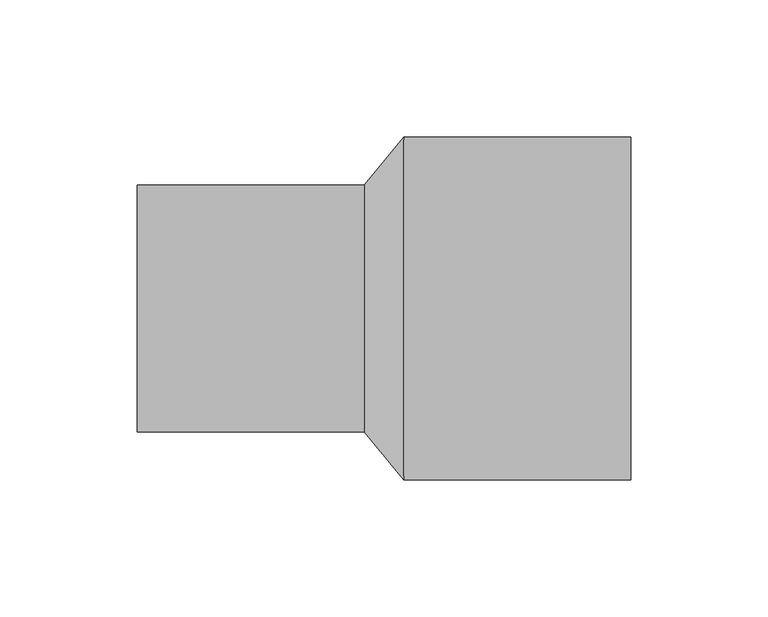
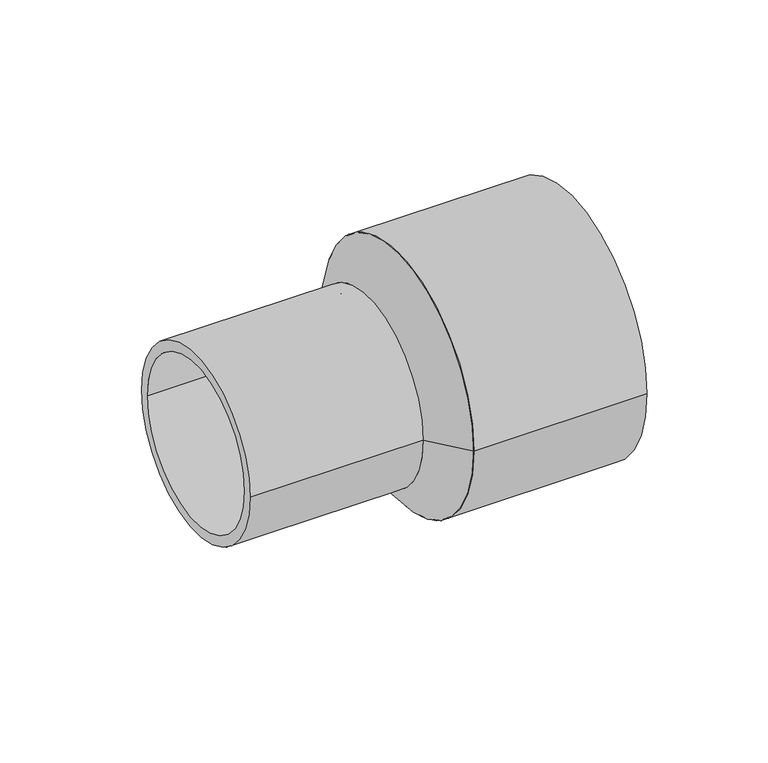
"""IFC4 building model written with IfcOpenShell, lengths in millimetres: pipe fitting geometry, EGB_VASEN_ PPR_Manguito reductor a tope WXRB110 : Manguito reductor a tope WXRB110."""

from ifc_helpers import new_model, si_unit, point, frame, origin, origin_2d, place, context, project, spatial, polyline, circle_curve, trimmed, segment, composite_curve, outline, extrude, source, transform, mapped, element, save
from ifc_brep_helpers import plane_surface, revolved_surface, advanced_brep


def pipe_fitting_f2bf815e(model_context):
    return source(origin(), model_context, "Body", "SolidModel", [
        extrude(outline(composite_curve([segment(trimmed(circle_curve(origin_2d(), 62.5), [point((-62.5, 0.0))], [point((62.5, 0.0))], False, "CARTESIAN"), True, "CONTINUOUS"), segment(trimmed(circle_curve(origin_2d(), 62.5), [point((62.5, 0.0))], [point((-62.5, 0.0))], False, "CARTESIAN"), True, "CONTINUOUS")], self_intersect=False), holes=[composite_curve([segment(trimmed(circle_curve(origin_2d(), 57.5), [point((-57.5, 0.0))], [point((57.5, 0.0))], True, "CARTESIAN"), True, "CONTINUOUS"), segment(trimmed(circle_curve(origin_2d(), 57.5), [point((57.5, 0.0))], [point((-57.5, 0.0))], True, "CARTESIAN"), True, "CONTINUOUS")], self_intersect=False)]), frame((7.2, 0.0, 0.0), z_axis=(1.0, 0.0, 0.0), x_axis=(0.0, 1.0, 0.0)), (0.0, 0.0, 1.0), 82.8),
        extrude(outline(composite_curve([segment(trimmed(circle_curve(origin_2d(), 45.0), [point((-45.0, 0.0))], [point((45.0, 0.0))], False, "CARTESIAN"), True, "CONTINUOUS"), segment(trimmed(circle_curve(origin_2d(), 45.0), [point((45.0, 0.0))], [point((-45.0, 0.0))], False, "CARTESIAN"), True, "CONTINUOUS")], self_intersect=False), holes=[composite_curve([segment(trimmed(circle_curve(origin_2d(), 40.0), [point((-40.0, 0.0))], [point((40.0, 0.0))], True, "CARTESIAN"), True, "CONTINUOUS"), segment(trimmed(circle_curve(origin_2d(), 40.0), [point((40.0, 0.0))], [point((-40.0, 0.0))], True, "CARTESIAN"), True, "CONTINUOUS")], self_intersect=False)]), frame((-90.0, 0.0, 0.0), z_axis=(1.0, 0.0, 0.0), x_axis=(0.0, 1.0, 0.0)), (0.0, 0.0, 1.0), 82.8),
        advanced_brep(
        [(7.2, -62.5, 0.0), (7.2, 62.5, 0.0), (-7.2, -45.0, 0.0), (-7.2, 45.0, 0.0)],
        [
            (0, 1, circle_curve(frame((7.2, 0.0, 0.0), z_axis=(1.0, 0.0, 0.0), x_axis=(0.0, -1.0, 0.0)), 62.5)),
            (1, 0, circle_curve(frame((7.2, 0.0, 0.0), z_axis=(1.0, 0.0, 0.0), x_axis=(0.0, 1.0, 0.0)), 62.5)),
            (2, 3, circle_curve(frame((-7.2, 0.0, 0.0), z_axis=(-1.0, 0.0, 0.0), x_axis=(0.0, 1.0, 0.0)), 45.0)),
            (3, 2, circle_curve(frame((-7.2, 0.0, 0.0), z_axis=(-1.0, 0.0, 0.0), x_axis=(0.0, -1.0, 0.0)), 45.0)),
            (3, 1),
            (0, 2),
        ],
        [
            plane_surface(frame((7.2, 0.0, 0.0), z_axis=(1.0, 0.0, 0.0), x_axis=(0.0, 0.0, -1.0))),
            plane_surface(frame((-7.2, 0.0, 0.0), z_axis=(-1.0, 0.0, 0.0), x_axis=(0.0, 0.0, -1.0))),
            revolved_surface(polyline([(-7.200000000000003, 44.99999999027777, 0.0), (7.200000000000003, 62.5, 0.0)]), (-44.2285714, 0.0, 0.0), (1.0, 0.0, 0.0)),
            revolved_surface(polyline([(-7.200000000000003, -44.99999999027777, 0.0), (7.200000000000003, -62.5, 0.0)]), (-44.2285714, 0.0, 0.0), (1.0, 0.0, 0.0)),
        ],
        [
            (0, [[1, 2]]),
            (1, [[3, 4]]),
            (2, [[-4, 5, -1, 6]]),
            (3, [[-3, -6, -2, -5]]),
        ],
    ),
    ])


if __name__ == "__main__":
    model = new_model("IFC4")
    model_context = context("Model", 3, world=origin())
    ifc_project = project(units=[si_unit("LENGTHUNIT", "METRE", prefix="MILLI")], contexts=[model_context])
    site = spatial("IfcSite", under=ifc_project)
    building = spatial("IfcBuilding", under=site)
    placement = place(None, origin())
    pipe_fitting_shape = pipe_fitting_f2bf815e(model_context)
    element("IfcPipeFitting", 1, ObjectType="EGB_VASEN_ PPR_Manguito reductor a tope WXRB110 : Manguito reductor a tope WXRB110", at=placement, inside=building, context=model_context, shape_type="MappedRepresentation", body=[
        mapped(pipe_fitting_shape, transform((0.0, 0.0, 0.0), x_axis=(1.0, 0.0, 0.0), y_axis=(0.0, 1.0, 0.0), z_axis=(0.0, 0.0, 1.0))),
    ])
    save(model, "model.ifc")
